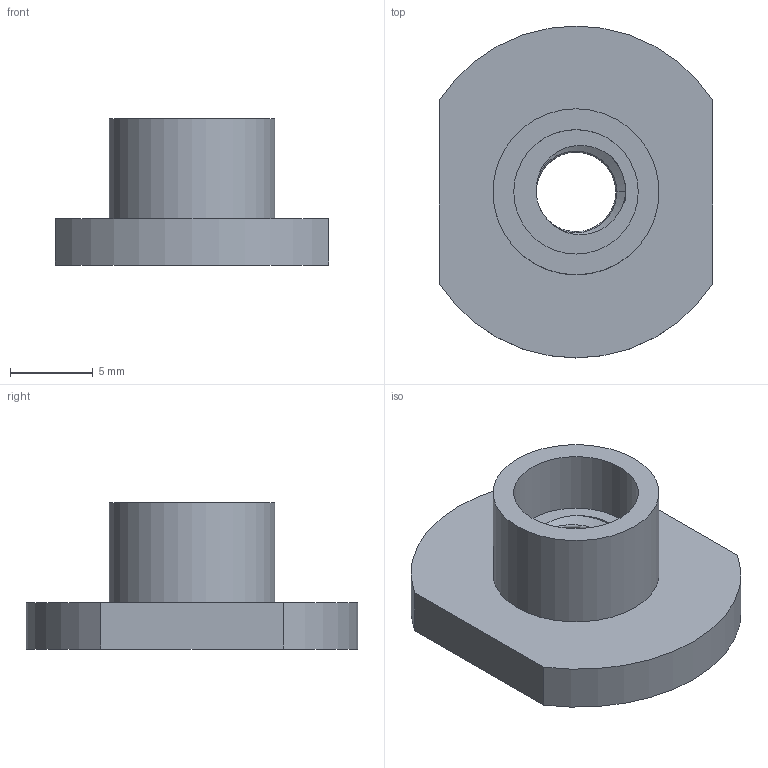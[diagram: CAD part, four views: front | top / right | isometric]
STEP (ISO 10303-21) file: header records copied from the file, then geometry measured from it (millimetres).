
FILE_DESCRIPTION(('FreeCAD Model'),'2;1');
FILE_NAME('Open CASCADE Shape Model','2022-10-29T13:57:53',( 'kicad StepUp'),('ksu MCAD'),'Open CASCADE STEP processor 7.5', 'FreeCAD','Unknown');
FILE_SCHEMA(('AUTOMOTIVE_DESIGN { 1 0 10303 214 1 1 1 1 }'));
Length unit declared in the file: millimetre
Products named in the file (1): Cut
Bounding box: 16.5 x 20 x 8.8 mm (x, y, z)
Volume: 890.3 mm3; surface area: 1123.5 mm2
Topology: 1 solids, 1 shells, 30 faces, 64 edges, 36 vertices
Faces by surface type: bspline 18, plane 7, cylinder 5
Full cylindrical faces by diameter (mm): 7.5 x1, 10 x2
Entity records: 1752 total; most frequent: CARTESIAN_POINT 1236, ORIENTED_EDGE 122, EDGE_CURVE 61, DIRECTION 57, VERTEX_POINT 36, FACE_BOUND 35, EDGE_LOOP 35, B_SPLINE_CURVE_WITH_KNOTS 33
